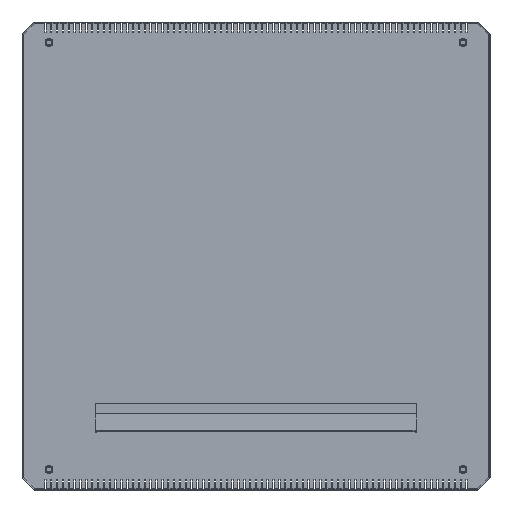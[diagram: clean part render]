
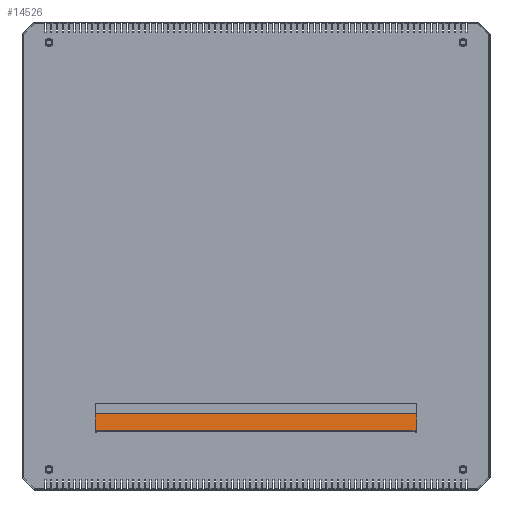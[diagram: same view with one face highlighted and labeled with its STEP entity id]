
A CAD part, front view. The second image highlights one B-rep face of the part: STEP entity #14526.
In plain terms, the highlighted planar face has unit normal (0, -0.996, 0.09).
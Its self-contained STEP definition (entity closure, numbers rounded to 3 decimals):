
#10127 = VERTEX_POINT ( 'NONE', #19436 ) ;
#10128 = VERTEX_POINT ( 'NONE', #19437 ) ;
#10129 = VERTEX_POINT ( 'NONE', #19438 ) ;
#10130 = VERTEX_POINT ( 'NONE', #19439 ) ;
#14526 = ADVANCED_FACE ( 'NONE', ( #38881 ), #42541, .F. ) ;
#19436 = CARTESIAN_POINT ( 'NONE',  ( -275., -3.6, -269.85 ) ) ;
#19437 = CARTESIAN_POINT ( 'NONE',  ( 275., -3.6, -269.85 ) ) ;
#19438 = CARTESIAN_POINT ( 'NONE',  ( -275., -6.3, -299.85 ) ) ;
#19439 = CARTESIAN_POINT ( 'NONE',  ( 275., -6.3, -299.85 ) ) ;
#26845 = EDGE_LOOP ( 'NONE', ( #33072, #33074, #33073, #33075 ) ) ;
#33072 = ORIENTED_EDGE ( 'NONE', *, *, #48757, .T. ) ;
#33073 = ORIENTED_EDGE ( 'NONE', *, *, #48767, .F. ) ;
#33074 = ORIENTED_EDGE ( 'NONE', *, *, #48763, .F. ) ;
#33075 = ORIENTED_EDGE ( 'NONE', *, *, #48769, .F. ) ;
#38881 = FACE_OUTER_BOUND ( 'NONE', #26845, .T. ) ;
#38885 = AXIS2_PLACEMENT_3D ( 'NONE', #42542, #42543, #42544 ) ;
#42541 = PLANE ( 'NONE',  #38885 ) ;
#42542 = CARTESIAN_POINT ( 'NONE',  ( 275., -3.6, -269.85 ) ) ;
#42543 = DIRECTION ( 'NONE',  ( 0., 0.996, -0.09 ) ) ;
#42544 = DIRECTION ( 'NONE',  ( 0., 0.09, 0.996 ) ) ;
#43988 = VECTOR ( 'NONE', #46334, 1000. ) ;
#43990 = VECTOR ( 'NONE', #46340, 1000. ) ;
#43991 = VECTOR ( 'NONE', #46343, 1000. ) ;
#43993 = VECTOR ( 'NONE', #46346, 1000. ) ;
#46332 = LINE ( 'NONE', #46333, #43988 ) ;
#46333 = CARTESIAN_POINT ( 'NONE',  ( 275., -3.6, -269.85 ) ) ;
#46334 = DIRECTION ( 'NONE',  ( -1., 0., 0. ) ) ;
#46338 = LINE ( 'NONE', #46339, #43990 ) ;
#46339 = CARTESIAN_POINT ( 'NONE',  ( -275., -6.3, -299.85 ) ) ;
#46340 = DIRECTION ( 'NONE',  ( 0., 0.09, 0.996 ) ) ;
#46341 = LINE ( 'NONE', #46342, #43991 ) ;
#46342 = CARTESIAN_POINT ( 'NONE',  ( 275., -6.3, -299.85 ) ) ;
#46343 = DIRECTION ( 'NONE',  ( -1., 0., 0. ) ) ;
#46344 = LINE ( 'NONE', #46345, #43993 ) ;
#46345 = CARTESIAN_POINT ( 'NONE',  ( 275., -3.6, -269.85 ) ) ;
#46346 = DIRECTION ( 'NONE',  ( 0., -0.09, -0.996 ) ) ;
#48757 = EDGE_CURVE ( 'NONE', #10128, #10127, #46332, .T. ) ;
#48763 = EDGE_CURVE ( 'NONE', #10129, #10127, #46338, .T. ) ;
#48767 = EDGE_CURVE ( 'NONE', #10130, #10129, #46341, .T. ) ;
#48769 = EDGE_CURVE ( 'NONE', #10128, #10130, #46344, .T. ) ;
